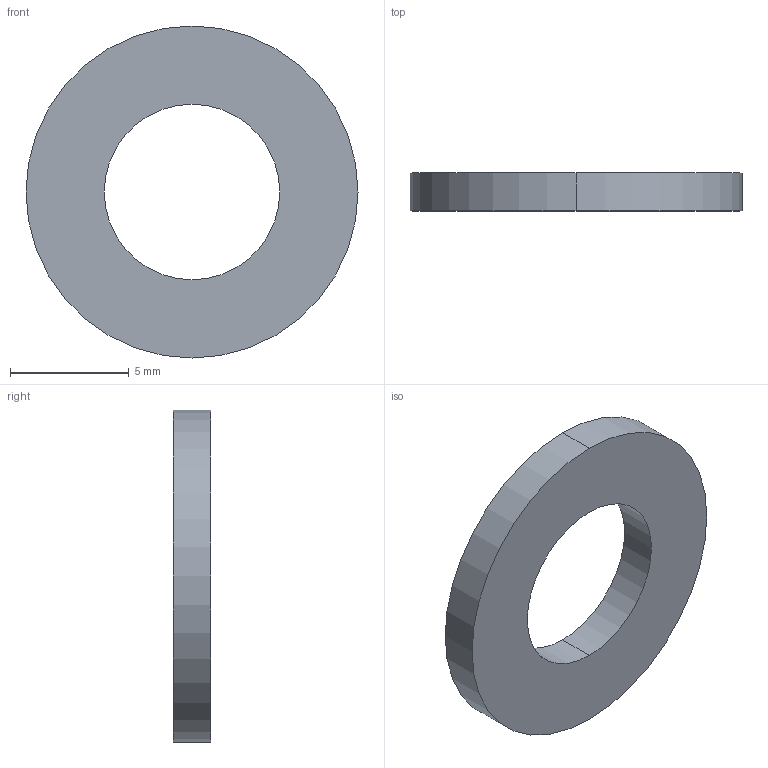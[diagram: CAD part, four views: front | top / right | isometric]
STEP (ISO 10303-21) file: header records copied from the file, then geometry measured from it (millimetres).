
FILE_DESCRIPTION (( 'STEP AP203' ), '1' );
FILE_NAME ('P0330.070-ZP.step', '2018-07-08T17:19:18', ( '' ), ( '' ), 'SwSTEP 2.0', 'SolidWorks 2017', '' );
FILE_SCHEMA (( 'CONFIG_CONTROL_DESIGN' ));
Length unit declared in the file: millimetre
Products named in the file (1): P0330.070-ZP
Bounding box: 14 x 1.6 x 14 mm (x, y, z)
Volume: 177.5 mm3; surface area: 329.4 mm2
Topology: 1 solids, 1 shells, 6 faces, 12 edges, 8 vertices
Faces by surface type: cylinder 4, plane 2
Entity records: 245 total; most frequent: DIRECTION 34, CARTESIAN_POINT 27, ORIENTED_EDGE 24, AXIS2_PLACEMENT_3D 15, EDGE_CURVE 12, EDGE_LOOP 8, PERSON_AND_ORGANIZATION 8, CIRCLE 8
